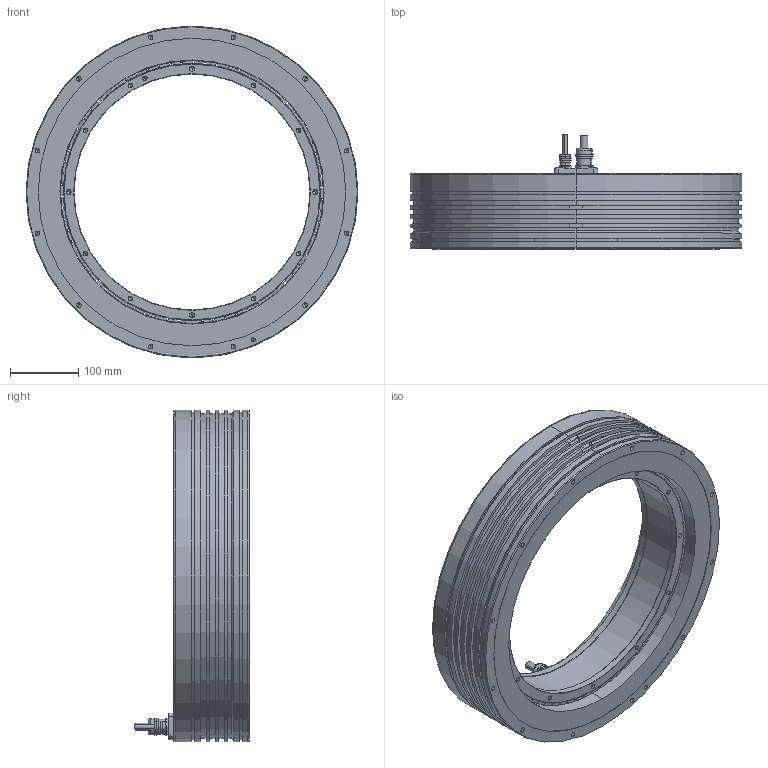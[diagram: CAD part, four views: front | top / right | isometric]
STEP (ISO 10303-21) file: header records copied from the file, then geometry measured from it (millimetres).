
FILE_DESCRIPTION (( 'STEP AP214' ), '1' );
FILE_NAME ('TORQUE KIT QMT HA 485-110-I-AX.STEP', '2025-10-02T06:53:13', ( '' ), ( '' ), 'SwSTEP 2.0', 'SolidWorks 2023', '' );
FILE_SCHEMA (( 'AUTOMOTIVE_DESIGN' ));
Length unit declared in the file: millimetre
Products named in the file (21): Cable Gland; Housing; Cable Connection; Rotor Glued; Magnet; Stator; TORQUE KIT QMT HA 485-110-I-AX; Rotor Ring; Resin; Cable; Rotor; Cooling Ring; Cable Clamp; Screw; Housing-BO
Assembly tree (90 placements, depth 6):
  TORQUE KIT QMT HA 485-110-I-AX
    Stator
      Stator
        Housing
          Housing-BO
            Cooling Ring
        Cable Connection
          Cable Connection
          Cable
          Cable
        Resin
      Cable Clamp
        Cable Clamp
        Cable Gland
        Cable Gland
      Screw  x3
    Rotor
      Rotor Glued
        Rotor Ring
        Magnet  x35
        Magnet  x35
Bounding box: 485 x 167.1 x 485 mm (x, y, z)
Volume: 8560284.9 mm3; surface area: 1253024.4 mm2
Topology: 82 solids, 82 shells, 2998 faces, 6832 edges, 3713 vertices
Faces by surface type: cylinder 1282, sphere 700, plane 490, torus 310, cone 216
Entity records: 31701 total; most frequent: CARTESIAN_POINT 4622, DIRECTION 4618, ORIENTED_EDGE 3788, AXIS2_PLACEMENT_3D 1915, EDGE_CURVE 1894, VERTEX_POINT 1191, EDGE_LOOP 981, CIRCLE 978
